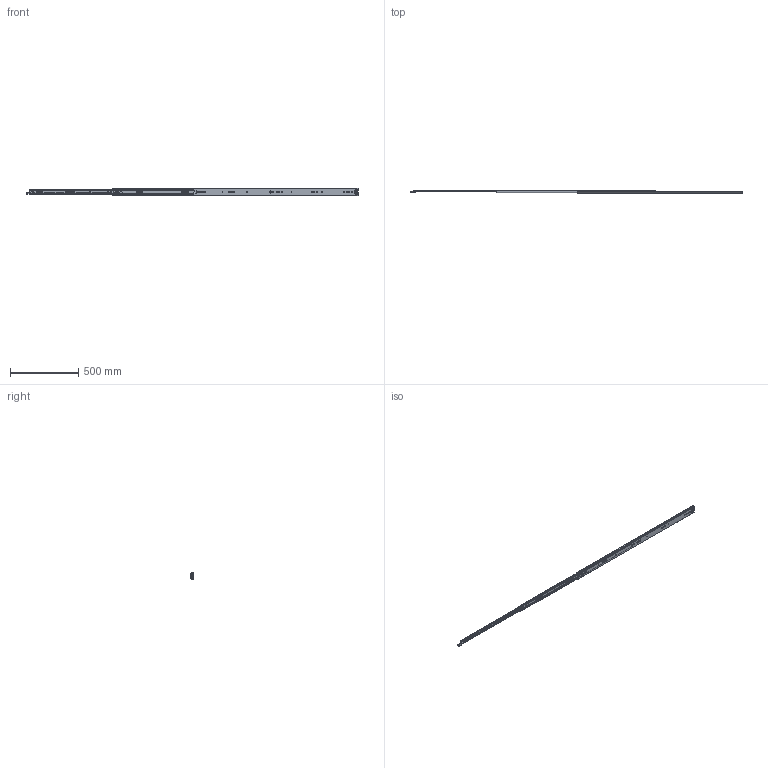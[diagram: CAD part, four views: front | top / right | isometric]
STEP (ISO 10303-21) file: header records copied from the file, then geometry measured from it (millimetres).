
FILE_DESCRIPTION((''),'2;1');
FILE_NAME('KP-57-01ZUZHUANGTU-48_ASM','2022-08-16T',('jishu015'),(''),'PRO/ENGINEER BY PARAMETRIC TECHNOLOGY CORPORATION, 2010280','PRO/ENGINEER BY PARAMETRIC TECHNOLOGY CORPORATION, 2010280','');
FILE_SCHEMA(('CONFIG_CONTROL_DESIGN'));
Products named in the file (22): KP-57-01WEIKE-18____; 1057WEIJIAO____; WAIKE___ASM; KP-57-01ZHONGGUI-18____; ZHONGGUIPEIJIAN-11__; ZHONGGUISUOKOU-11__; KP-57-01ZHONGGUI-18_____ASM; 1057XIAOZHUJIA____; 1057-5-6GANZHU____; 1057XIAOZHUJIA-14GE_____ASM; KP-57-01NEIGUI-18____; PJ-57-08__; DIAOPIAN-11__; 50XINSUOKOU-1__; TANHUANG__; 1053-3SBANJI122; JIAO11; KP-57-01NEIGUI-18_____ASM; 1053ZHUTIAO-175________; 53-5-6GANZHU________; 1053ZHUTIAO-175MM___ASM; KP-57-01ZUZHUANGTU-48_ASM
Assembly tree (130 placements, depth 3):
  KP-57-01ZUZHUANGTU-48_ASM
    WAIKE___ASM
      KP-57-01WEIKE-18____
      1057WEIJIAO____
    KP-57-01ZHONGGUI-18_____ASM
      KP-57-01ZHONGGUI-18____
      ZHONGGUIPEIJIAN-11__
      ZHONGGUISUOKOU-11__
    1057XIAOZHUJIA-14GE_____ASM
      1057XIAOZHUJIA____
      1057-5-6GANZHU____  x88
    KP-57-01NEIGUI-18_____ASM
      KP-57-01NEIGUI-18____
      PJ-57-08__
      DIAOPIAN-11__
      50XINSUOKOU-1__
      TANHUANG__
      1053-3SBANJI122
      JIAO11
    1053ZHUTIAO-175MM___ASM  x2
      1053ZHUTIAO-175________
      53-5-6GANZHU________
Bounding box: 2426.92 x 19.05 x 57.7 mm (x, y, z)
Volume: 530171.1 mm3; surface area: 579145.4 mm2
Topology: 150 solids, 150 shells, 3342 faces, 9686 edges, 6005 vertices
Faces by surface type: cylinder 1476, plane 1307, sphere 275, bspline 152, cone 86, torus 23, extrusion 23
Entity records: 106003 total; most frequent: CARTESIAN_POINT 26007, ORIENTED_EDGE 16936, DIRECTION 16501, EDGE_CURVE 8468, AXIS2_PLACEMENT_3D 5707, VERTEX_POINT 5465, VECTOR 5087, LINE 5064
